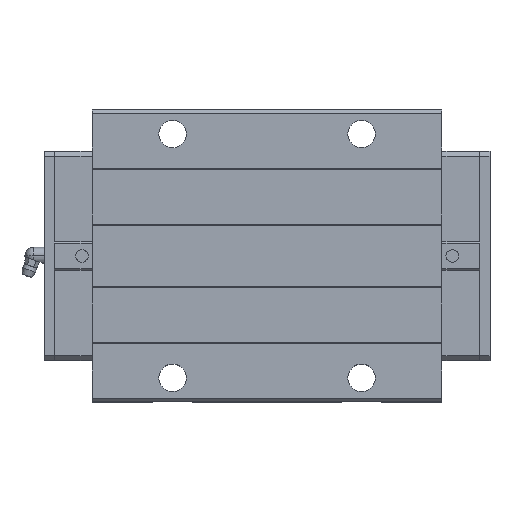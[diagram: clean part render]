
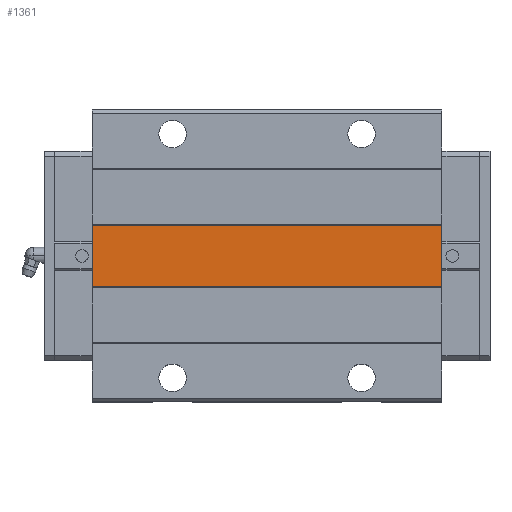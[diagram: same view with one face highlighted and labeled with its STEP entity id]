
A CAD part, top view. The second image highlights one B-rep face of the part: STEP entity #1361.
In plain terms, the highlighted planar face has unit normal (0, 0, 1).
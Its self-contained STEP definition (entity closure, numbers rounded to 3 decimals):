
#1300=CARTESIAN_POINT('POINT93',(231.6,-18.,
   75.));
#1301=VERTEX_POINT('VERTEX93',#1300);
#1308=CARTESIAN_POINT('POINT94',(28.,-18.,
   75.));
#1309=VERTEX_POINT('VERTEX94',#1308);
#1310=CARTESIAN_POINT('POS129',(28.,-18.,
   75.));
#1311=DIRECTION('DIR187',(1.,0.,0.));
#1312=VECTOR('VEC71',#1311,1.);
#1313=LINE('STRAIGHT71',#1310,#1312);
#1314=EDGE_CURVE('EDGE126',#1309,#1301,#1313,.T.);
#1331=CARTESIAN_POINT('POINT95',(231.6,18.,75.));
#1332=VERTEX_POINT('VERTEX95',#1331);
#1333=CARTESIAN_POINT('POS132',(231.6,0.,75.));
#1334=DIRECTION('DIR191',(0.,1.,0.));
#1335=VECTOR('VEC73',#1334,1.);
#1336=LINE('STRAIGHT73',#1333,#1335);
#1337=EDGE_CURVE('EDGE128',#1301,#1332,#1336,.T.);
#1338=ORIENTED_EDGE('COEDGE195',*,*,#1337,.T.);
#1339=CARTESIAN_POINT('POINT96',(28.,18.,75.));
#1340=VERTEX_POINT('VERTEX96',#1339);
#1341=CARTESIAN_POINT('POS133',(28.,18.,75.));
#1342=DIRECTION('DIR192',(1.,0.,0.));
#1343=VECTOR('VEC74',#1342,1.);
#1344=LINE('STRAIGHT74',#1341,#1343);
#1345=EDGE_CURVE('EDGE129',#1340,#1332,#1344,.T.);
#1346=ORIENTED_EDGE('COEDGE196',*,*,#1345,.F.);
#1347=CARTESIAN_POINT('POS134',(28.,0.,75.));
#1348=DIRECTION('DIR193',(0.,1.,0.));
#1349=VECTOR('VEC75',#1348,1.);
#1350=LINE('STRAIGHT75',#1347,#1349);
#1351=EDGE_CURVE('EDGE130',#1309,#1340,#1350,.T.);
#1352=ORIENTED_EDGE('COEDGE197',*,*,#1351,.F.);
#1353=ORIENTED_EDGE('COEDGE198',*,*,#1314,.T.);
#1354=EDGE_LOOP('NONE',(#1338,#1346,#1352,#1353));
#1355=FACE_BOUND('LOOP1',#1354,.T.);
#1356=CARTESIAN_POINT('POS135',(28.,0.,75.));
#1357=DIRECTION('DIR194',(0.,0.,1.));
#1358=DIRECTION('DIR195',(1.,0.,0.));
#1359=AXIS2_PLACEMENT_3D('AXIS60',#1356,#1357,#1358);
#1360=PLANE('PLANE17',#1359);
#1361=ADVANCED_FACE('FACE38',(#1355),#1360,.T.);
